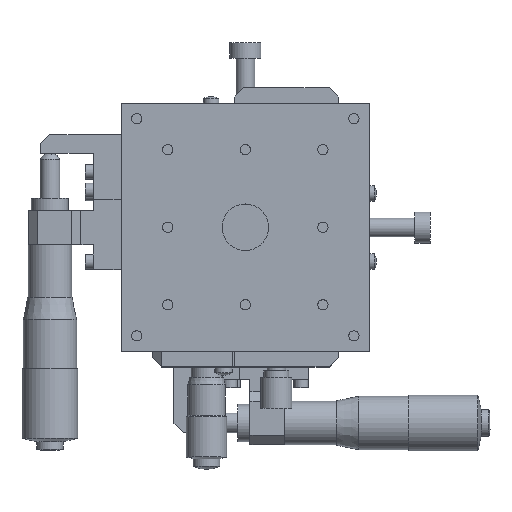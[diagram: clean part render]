
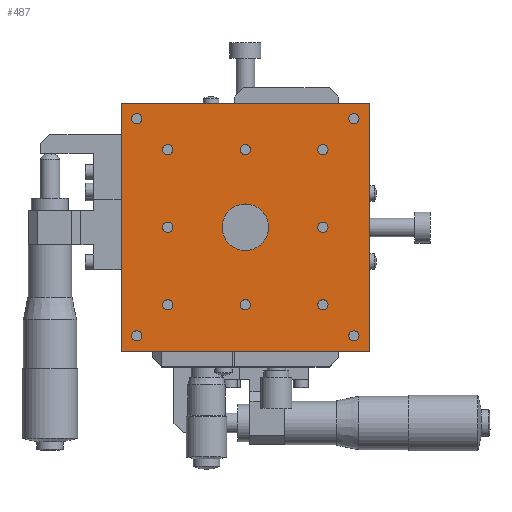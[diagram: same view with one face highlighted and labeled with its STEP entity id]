
A CAD part, top view. The second image highlights one B-rep face of the part: STEP entity #487.
In plain terms, the highlighted planar face has unit normal (0, 0, 1).
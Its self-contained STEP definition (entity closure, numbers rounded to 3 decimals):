
#487 = ADVANCED_FACE( '', ( #954, #955, #956, #957, #958, #959, #960, #961, #962, #963, #964, #965, #966, #967 ), #968, .T. );
#954 = FACE_BOUND( '', #1990, .T. );
#955 = FACE_BOUND( '', #1991, .T. );
#956 = FACE_BOUND( '', #1992, .T. );
#957 = FACE_BOUND( '', #1993, .T. );
#958 = FACE_BOUND( '', #1994, .T. );
#959 = FACE_BOUND( '', #1995, .T. );
#960 = FACE_BOUND( '', #1996, .T. );
#961 = FACE_BOUND( '', #1997, .T. );
#962 = FACE_BOUND( '', #1998, .T. );
#963 = FACE_BOUND( '', #1999, .T. );
#964 = FACE_BOUND( '', #2000, .T. );
#965 = FACE_BOUND( '', #2001, .T. );
#966 = FACE_BOUND( '', #2002, .T. );
#967 = FACE_OUTER_BOUND( '', #2003, .T. );
#968 = PLANE( '', #2004 );
#1990 = EDGE_LOOP( '', ( #3164 ) );
#1991 = EDGE_LOOP( '', ( #3165 ) );
#1992 = EDGE_LOOP( '', ( #3166 ) );
#1993 = EDGE_LOOP( '', ( #3167 ) );
#1994 = EDGE_LOOP( '', ( #3168 ) );
#1995 = EDGE_LOOP( '', ( #3169 ) );
#1996 = EDGE_LOOP( '', ( #3170 ) );
#1997 = EDGE_LOOP( '', ( #3171 ) );
#1998 = EDGE_LOOP( '', ( #3172 ) );
#1999 = EDGE_LOOP( '', ( #3173 ) );
#2000 = EDGE_LOOP( '', ( #3174 ) );
#2001 = EDGE_LOOP( '', ( #3175 ) );
#2002 = EDGE_LOOP( '', ( #3176 ) );
#2003 = EDGE_LOOP( '', ( #3177, #3178, #3179, #3180 ) );
#2004 = AXIS2_PLACEMENT_3D( '', #3181, #3182, #3183 );
#3164 = ORIENTED_EDGE( '', *, *, #6103, .T. );
#3165 = ORIENTED_EDGE( '', *, *, #6104, .T. );
#3166 = ORIENTED_EDGE( '', *, *, #6105, .T. );
#3167 = ORIENTED_EDGE( '', *, *, #6106, .T. );
#3168 = ORIENTED_EDGE( '', *, *, #6107, .T. );
#3169 = ORIENTED_EDGE( '', *, *, #6108, .T. );
#3170 = ORIENTED_EDGE( '', *, *, #6109, .T. );
#3171 = ORIENTED_EDGE( '', *, *, #6110, .T. );
#3172 = ORIENTED_EDGE( '', *, *, #6111, .T. );
#3173 = ORIENTED_EDGE( '', *, *, #6112, .T. );
#3174 = ORIENTED_EDGE( '', *, *, #6113, .T. );
#3175 = ORIENTED_EDGE( '', *, *, #6114, .T. );
#3176 = ORIENTED_EDGE( '', *, *, #6048, .T. );
#3177 = ORIENTED_EDGE( '', *, *, #6115, .T. );
#3178 = ORIENTED_EDGE( '', *, *, #6100, .F. );
#3179 = ORIENTED_EDGE( '', *, *, #6116, .F. );
#3180 = ORIENTED_EDGE( '', *, *, #6117, .F. );
#3181 = CARTESIAN_POINT( '', ( 0., 0., 77. ) );
#3182 = DIRECTION( '', ( 0., 0., 1. ) );
#3183 = DIRECTION( '', ( 1., 0., 0. ) );
#6048 = EDGE_CURVE( '', #6984, #6984, #6985, .T. );
#6100 = EDGE_CURVE( '', #7071, #7073, #7074, .T. );
#6103 = EDGE_CURVE( '', #7077, #7077, #7078, .T. );
#6104 = EDGE_CURVE( '', #7079, #7079, #7080, .T. );
#6105 = EDGE_CURVE( '', #7081, #7081, #7082, .T. );
#6106 = EDGE_CURVE( '', #7083, #7083, #7084, .T. );
#6107 = EDGE_CURVE( '', #7085, #7085, #7086, .T. );
#6108 = EDGE_CURVE( '', #7087, #7087, #7088, .T. );
#6109 = EDGE_CURVE( '', #7089, #7089, #7090, .T. );
#6110 = EDGE_CURVE( '', #7091, #7091, #7092, .T. );
#6111 = EDGE_CURVE( '', #7093, #7093, #7094, .T. );
#6112 = EDGE_CURVE( '', #7095, #7095, #7096, .T. );
#6113 = EDGE_CURVE( '', #7097, #7097, #7098, .T. );
#6114 = EDGE_CURVE( '', #7099, #7099, #7100, .T. );
#6115 = EDGE_CURVE( '', #7101, #7073, #7102, .T. );
#6116 = EDGE_CURVE( '', #7103, #7071, #7104, .T. );
#6117 = EDGE_CURVE( '', #7101, #7103, #7105, .T. );
#6984 = VERTEX_POINT( '', #8558 );
#6985 = CIRCLE( '', #8559, 1.65 );
#7071 = VERTEX_POINT( '', #8684 );
#7073 = VERTEX_POINT( '', #8687 );
#7074 = LINE( '', #8688, #8689 );
#7077 = VERTEX_POINT( '', #8694 );
#7078 = CIRCLE( '', #8695, 7.5 );
#7079 = VERTEX_POINT( '', #8696 );
#7080 = CIRCLE( '', #8697, 1.65 );
#7081 = VERTEX_POINT( '', #8698 );
#7082 = CIRCLE( '', #8699, 1.65 );
#7083 = VERTEX_POINT( '', #8700 );
#7084 = CIRCLE( '', #8701, 1.65 );
#7085 = VERTEX_POINT( '', #8702 );
#7086 = CIRCLE( '', #8703, 1.65 );
#7087 = VERTEX_POINT( '', #8704 );
#7088 = CIRCLE( '', #8705, 1.65 );
#7089 = VERTEX_POINT( '', #8706 );
#7090 = CIRCLE( '', #8707, 1.65 );
#7091 = VERTEX_POINT( '', #8708 );
#7092 = CIRCLE( '', #8709, 1.65 );
#7093 = VERTEX_POINT( '', #8710 );
#7094 = CIRCLE( '', #8711, 1.65 );
#7095 = VERTEX_POINT( '', #8712 );
#7096 = CIRCLE( '', #8713, 1.65 );
#7097 = VERTEX_POINT( '', #8714 );
#7098 = CIRCLE( '', #8715, 1.65 );
#7099 = VERTEX_POINT( '', #8716 );
#7100 = CIRCLE( '', #8717, 1.65 );
#7101 = VERTEX_POINT( '', #8718 );
#7102 = LINE( '', #8719, #8720 );
#7103 = VERTEX_POINT( '', #8721 );
#7104 = LINE( '', #8722, #8723 );
#7105 = LINE( '', #8724, #8725 );
#8558 = CARTESIAN_POINT( '', ( -35., -36.65, 77. ) );
#8559 = AXIS2_PLACEMENT_3D( '', #10730, #10731, #10732 );
#8684 = CARTESIAN_POINT( '', ( 40., 40., 77. ) );
#8687 = CARTESIAN_POINT( '', ( 40., -40., 77. ) );
#8688 = CARTESIAN_POINT( '', ( 40., 0., 77. ) );
#8689 = VECTOR( '', #10806, 1000. );
#8694 = CARTESIAN_POINT( '', ( 0., -7.5, 77. ) );
#8695 = AXIS2_PLACEMENT_3D( '', #10809, #10810, #10811 );
#8696 = CARTESIAN_POINT( '', ( -25., -1.65, 77. ) );
#8697 = AXIS2_PLACEMENT_3D( '', #10812, #10813, #10814 );
#8698 = CARTESIAN_POINT( '', ( -25., 23.35, 77. ) );
#8699 = AXIS2_PLACEMENT_3D( '', #10815, #10816, #10817 );
#8700 = CARTESIAN_POINT( '', ( 0., 23.35, 77. ) );
#8701 = AXIS2_PLACEMENT_3D( '', #10818, #10819, #10820 );
#8702 = CARTESIAN_POINT( '', ( 25., 23.35, 77. ) );
#8703 = AXIS2_PLACEMENT_3D( '', #10821, #10822, #10823 );
#8704 = CARTESIAN_POINT( '', ( 25., -1.65, 77. ) );
#8705 = AXIS2_PLACEMENT_3D( '', #10824, #10825, #10826 );
#8706 = CARTESIAN_POINT( '', ( 25., -26.65, 77. ) );
#8707 = AXIS2_PLACEMENT_3D( '', #10827, #10828, #10829 );
#8708 = CARTESIAN_POINT( '', ( 0., -26.65, 77. ) );
#8709 = AXIS2_PLACEMENT_3D( '', #10830, #10831, #10832 );
#8710 = CARTESIAN_POINT( '', ( -25., -26.65, 77. ) );
#8711 = AXIS2_PLACEMENT_3D( '', #10833, #10834, #10835 );
#8712 = CARTESIAN_POINT( '', ( -35., 33.35, 77. ) );
#8713 = AXIS2_PLACEMENT_3D( '', #10836, #10837, #10838 );
#8714 = CARTESIAN_POINT( '', ( 35., 33.35, 77. ) );
#8715 = AXIS2_PLACEMENT_3D( '', #10839, #10840, #10841 );
#8716 = CARTESIAN_POINT( '', ( 35., -36.65, 77. ) );
#8717 = AXIS2_PLACEMENT_3D( '', #10842, #10843, #10844 );
#8718 = CARTESIAN_POINT( '', ( -40., -40., 77. ) );
#8719 = CARTESIAN_POINT( '', ( 0., -40., 77. ) );
#8720 = VECTOR( '', #10845, 1000. );
#8721 = CARTESIAN_POINT( '', ( -40., 40., 77. ) );
#8722 = CARTESIAN_POINT( '', ( 0., 40., 77. ) );
#8723 = VECTOR( '', #10846, 1000. );
#8724 = CARTESIAN_POINT( '', ( -40., 0., 77. ) );
#8725 = VECTOR( '', #10847, 1000. );
#10730 = CARTESIAN_POINT( '', ( -35., -35., 77. ) );
#10731 = DIRECTION( '', ( 0., 0., -1. ) );
#10732 = DIRECTION( '', ( 0., -1., 0. ) );
#10806 = DIRECTION( '', ( 0., -1., 0. ) );
#10809 = CARTESIAN_POINT( '', ( 0., 0., 77. ) );
#10810 = DIRECTION( '', ( 0., 0., -1. ) );
#10811 = DIRECTION( '', ( 0., -1., 0. ) );
#10812 = CARTESIAN_POINT( '', ( -25., 0., 77. ) );
#10813 = DIRECTION( '', ( 0., 0., -1. ) );
#10814 = DIRECTION( '', ( 0., -1., 0. ) );
#10815 = CARTESIAN_POINT( '', ( -25., 25., 77. ) );
#10816 = DIRECTION( '', ( 0., 0., -1. ) );
#10817 = DIRECTION( '', ( 0., -1., 0. ) );
#10818 = CARTESIAN_POINT( '', ( 0., 25., 77. ) );
#10819 = DIRECTION( '', ( 0., 0., -1. ) );
#10820 = DIRECTION( '', ( 0., -1., 0. ) );
#10821 = CARTESIAN_POINT( '', ( 25., 25., 77. ) );
#10822 = DIRECTION( '', ( 0., 0., -1. ) );
#10823 = DIRECTION( '', ( 0., -1., 0. ) );
#10824 = CARTESIAN_POINT( '', ( 25., 0., 77. ) );
#10825 = DIRECTION( '', ( 0., 0., -1. ) );
#10826 = DIRECTION( '', ( 0., -1., 0. ) );
#10827 = CARTESIAN_POINT( '', ( 25., -25., 77. ) );
#10828 = DIRECTION( '', ( 0., 0., -1. ) );
#10829 = DIRECTION( '', ( 0., -1., 0. ) );
#10830 = CARTESIAN_POINT( '', ( 0., -25., 77. ) );
#10831 = DIRECTION( '', ( 0., 0., -1. ) );
#10832 = DIRECTION( '', ( 0., -1., 0. ) );
#10833 = CARTESIAN_POINT( '', ( -25., -25., 77. ) );
#10834 = DIRECTION( '', ( 0., 0., -1. ) );
#10835 = DIRECTION( '', ( 0., -1., 0. ) );
#10836 = CARTESIAN_POINT( '', ( -35., 35., 77. ) );
#10837 = DIRECTION( '', ( 0., 0., -1. ) );
#10838 = DIRECTION( '', ( 0., -1., 0. ) );
#10839 = CARTESIAN_POINT( '', ( 35., 35., 77. ) );
#10840 = DIRECTION( '', ( 0., 0., -1. ) );
#10841 = DIRECTION( '', ( 0., -1., 0. ) );
#10842 = CARTESIAN_POINT( '', ( 35., -35., 77. ) );
#10843 = DIRECTION( '', ( 0., 0., -1. ) );
#10844 = DIRECTION( '', ( 0., -1., 0. ) );
#10845 = DIRECTION( '', ( 1., 0., 0. ) );
#10846 = DIRECTION( '', ( 1., 0., 0. ) );
#10847 = DIRECTION( '', ( 0., 1., 0. ) );
